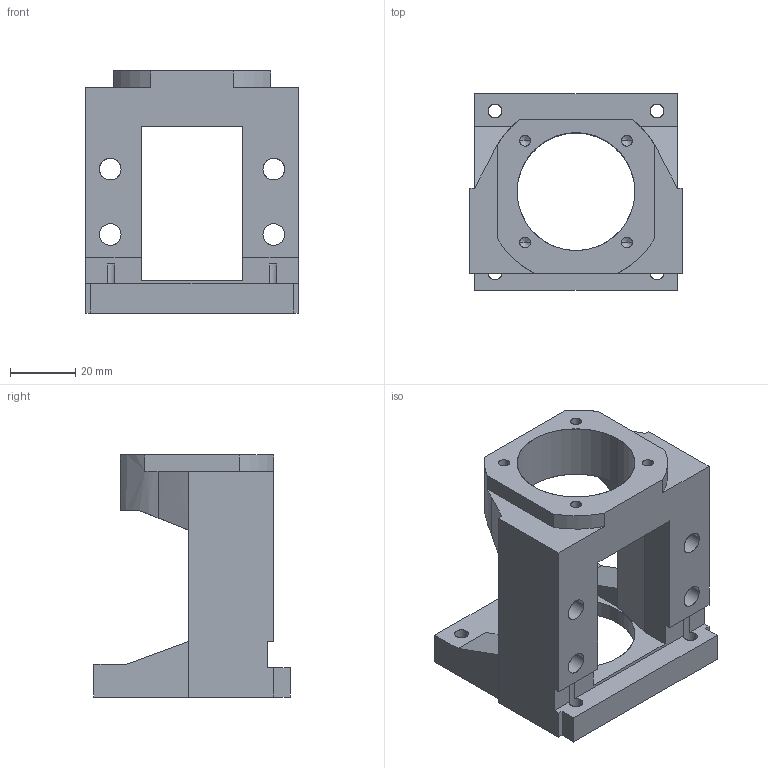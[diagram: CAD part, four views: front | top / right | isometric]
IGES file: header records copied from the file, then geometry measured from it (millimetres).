
Start section: SolidWorks IGES file using analytic representation for surfaces
Global section: file name: C:\Users\117\Desktop\1061208網站3D圖檔問題處理\傳動座\外露型\MBA\MBA12-D.IGS,15HSolidWorks; native system: 2017; preprocessor: SolidWorks 2017; author: 117; date: 171228.135726; units: millimetre
Bounding box: 65 x 60 x 74 mm (x, y, z)
Surface area: 27328.2 mm2 (no closed solid volume)
Topology: 0 solids, 0 shells, 97 faces, 1766 edges, 1758 vertices
Faces by surface type: revolution 54, bspline 43
